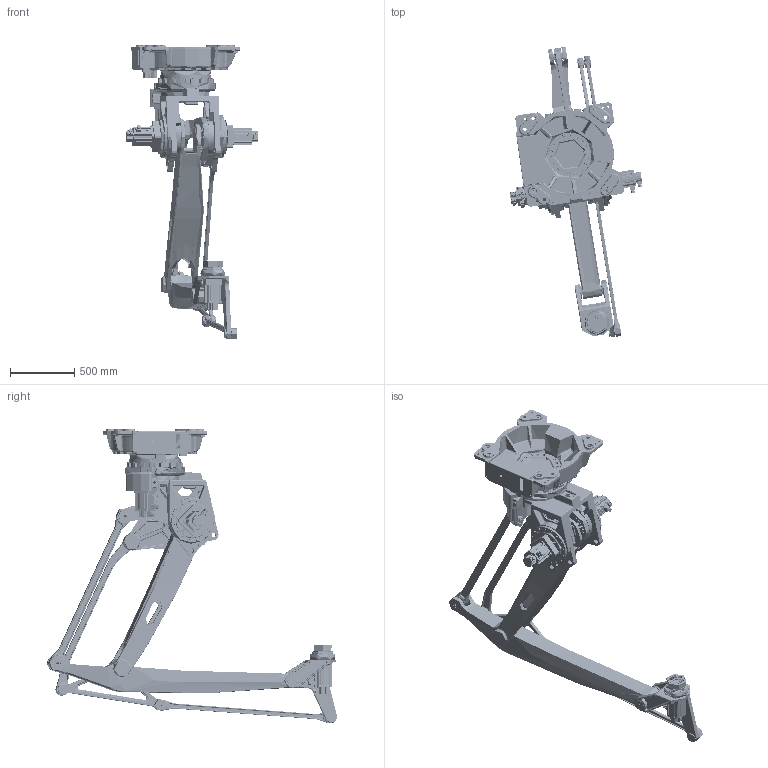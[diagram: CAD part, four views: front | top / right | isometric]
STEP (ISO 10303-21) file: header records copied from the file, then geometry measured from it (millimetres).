
FILE_DESCRIPTION (( 'STEP AP203' ), '1' );
FILE_NAME ('LB3100.STEP', '2024-04-26T03:59:47', ( '' ), ( '' ), 'SwSTEP 2.0', 'SolidWorks 2022', '' );
FILE_SCHEMA (( 'CONFIG_CONTROL_DESIGN' ));
Products named in the file (14): MD130L-180L-004; MD130L-180L-006; MD130L-180L-010; MD130L-180L-002; MD130L-180L-012; MD130L-180L-008; MD130L-180L-013; MD130L-180L-001; MD130L-180L-009; MD130L-180L-005; MD130L-180L-007; MD130L-180L-011; LB3100; MD130L-180L-003
Assembly tree (13 placements, depth 2):
  LB3100
    MD130L-180L-002
    MD130L-180L-001
    MD130L-180L-003
    MD130L-180L-004
    MD130L-180L-005
    MD130L-180L-006
    MD130L-180L-007
    MD130L-180L-008
    MD130L-180L-009
    MD130L-180L-010
    MD130L-180L-011
    MD130L-180L-012
    MD130L-180L-013
Bounding box: 1035.11 x 2261.87 x 2294.81 mm (x, y, z)
Topology: 12 solids, 51 shells, 13386 faces, 33237 edges, 20219 vertices
Faces by surface type: cylinder 4670, plane 4451, torus 1676, bspline 1302, cone 851, sphere 436
Full cylindrical faces by diameter (mm): 9.8 x1, 390 x1
Entity records: 493504 total; most frequent: CARTESIAN_POINT 185975, ORIENTED_EDGE 65242, DIRECTION 62515, EDGE_CURVE 32624, AXIS2_PLACEMENT_3D 23813, VERTEX_POINT 20164, VECTOR 14889, LINE 14889
